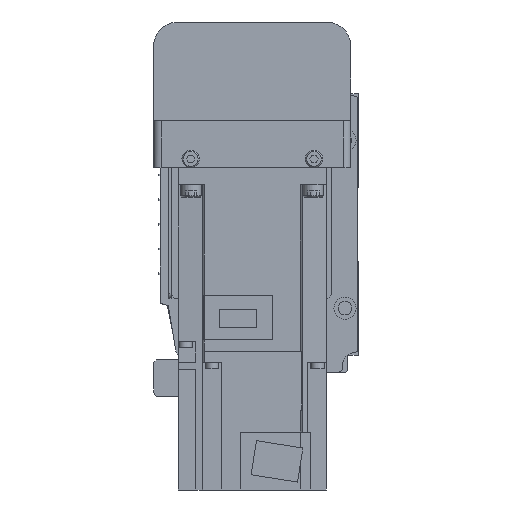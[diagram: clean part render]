
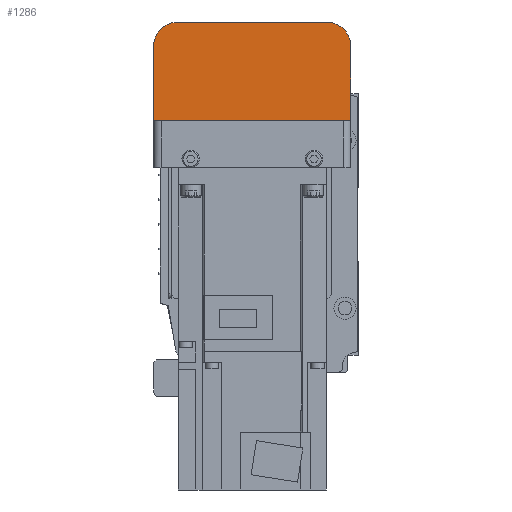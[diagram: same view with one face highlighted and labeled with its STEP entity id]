
A CAD part, left-side view. The second image highlights one B-rep face of the part: STEP entity #1286.
In plain terms, the highlighted planar face has unit normal (-1, 0, 0).
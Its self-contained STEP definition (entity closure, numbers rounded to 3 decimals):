
#1286 = ADVANCED_FACE( '', ( #3018 ), #3019, .F. );
#3018 = FACE_OUTER_BOUND( '', #5338, .T. );
#3019 = PLANE( '', #5339 );
#5338 = EDGE_LOOP( '', ( #8848, #8849, #8850, #8851, #8852, #8853 ) );
#5339 = AXIS2_PLACEMENT_3D( '', #8854, #8855, #8856 );
#8848 = ORIENTED_EDGE( '', *, *, #13887, .F. );
#8849 = ORIENTED_EDGE( '', *, *, #14349, .F. );
#8850 = ORIENTED_EDGE( '', *, *, #14350, .F. );
#8851 = ORIENTED_EDGE( '', *, *, #14351, .F. );
#8852 = ORIENTED_EDGE( '', *, *, #14352, .F. );
#8853 = ORIENTED_EDGE( '', *, *, #14353, .F. );
#8854 = CARTESIAN_POINT( '', ( -192., 37., 7. ) );
#8855 = DIRECTION( '', ( 1., 0., 0. ) );
#8856 = DIRECTION( '', ( 0., 0., -1. ) );
#13887 = EDGE_CURVE( '', #16425, #16573, #16794, .T. );
#14349 = EDGE_CURVE( '', #17531, #16425, #17532, .T. );
#14350 = EDGE_CURVE( '', #17533, #17531, #17534, .T. );
#14351 = EDGE_CURVE( '', #17535, #17533, #17536, .T. );
#14352 = EDGE_CURVE( '', #17537, #17535, #17538, .T. );
#14353 = EDGE_CURVE( '', #16573, #17537, #17539, .T. );
#16425 = VERTEX_POINT( '', #20270 );
#16573 = VERTEX_POINT( '', #20469 );
#16794 = LINE( '', #20781, #20782 );
#17531 = VERTEX_POINT( '', #21778 );
#17532 = LINE( '', #21779, #21780 );
#17533 = VERTEX_POINT( '', #21781 );
#17534 = CIRCLE( '', #21782, 10. );
#17535 = VERTEX_POINT( '', #21783 );
#17536 = LINE( '', #21784, #21785 );
#17537 = VERTEX_POINT( '', #21786 );
#17538 = CIRCLE( '', #21787, 10. );
#17539 = LINE( '', #21788, #21789 );
#20270 = CARTESIAN_POINT( '', ( -192., 40., -12.1 ) );
#20469 = CARTESIAN_POINT( '', ( -192., -40., -12.1 ) );
#20781 = CARTESIAN_POINT( '', ( -192., 50., -12.1 ) );
#20782 = VECTOR( '', #24958, 1000. );
#21778 = CARTESIAN_POINT( '', ( -192., 40., -42. ) );
#21779 = CARTESIAN_POINT( '', ( -192., 40., -42. ) );
#21780 = VECTOR( '', #25527, 1000. );
#21781 = CARTESIAN_POINT( '', ( -192., 30., -52. ) );
#21782 = AXIS2_PLACEMENT_3D( '', #25528, #25529, #25530 );
#21783 = CARTESIAN_POINT( '', ( -192., -30., -52. ) );
#21784 = CARTESIAN_POINT( '', ( -192., -30., -52. ) );
#21785 = VECTOR( '', #25531, 1000. );
#21786 = CARTESIAN_POINT( '', ( -192., -40., -42. ) );
#21787 = AXIS2_PLACEMENT_3D( '', #25532, #25533, #25534 );
#21788 = CARTESIAN_POINT( '', ( -192., -40., -12.1 ) );
#21789 = VECTOR( '', #25535, 1000. );
#24958 = DIRECTION( '', ( 0., -1., 0. ) );
#25527 = DIRECTION( '', ( 0., 0., 1. ) );
#25528 = CARTESIAN_POINT( '', ( -192., 30., -42. ) );
#25529 = DIRECTION( '', ( 1., 0., 0. ) );
#25530 = DIRECTION( '', ( 0., 0., -1. ) );
#25531 = DIRECTION( '', ( 0., 1., 0. ) );
#25532 = CARTESIAN_POINT( '', ( -192., -30., -42. ) );
#25533 = DIRECTION( '', ( 1., 0., 0. ) );
#25534 = DIRECTION( '', ( 0., 0., -1. ) );
#25535 = DIRECTION( '', ( 0., 0., -1. ) );
